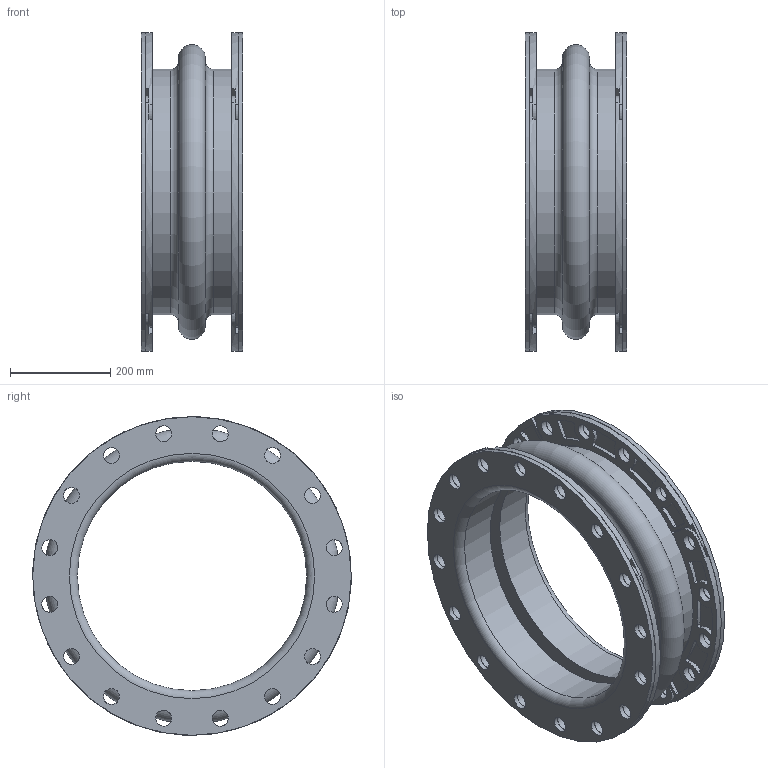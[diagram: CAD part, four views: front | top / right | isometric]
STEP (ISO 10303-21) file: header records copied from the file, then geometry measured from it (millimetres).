
FILE_DESCRIPTION(/* description */ (''),/* implementation_level */ '2;1');
FILE_NAME(/* name */ 'C:\001_Work\Designs\Mercer2014\MQInventor2014\RajR\500 Style\501\New folder\501 18IDx8FF.stp',/* time_stamp */ '2016-03-26T14:24:25-04:00',/* author */ ('rramoutar'),/* organization */ ('Mason Industries Inc.'),/* preprocessor_version */ 'ST-DEVELOPER v15.6',/* originating_system */ 'Autodesk Inventor 2015',/* authorisation */ '');
FILE_SCHEMA (('CONFIG_CONTROL_DESIGN'));
Length unit declared in the file: inch
Products named in the file (1): 501 18IDx8FF
Bounding box: 203.2 x 635 x 635 mm (x, y, z)
Volume: 11077859.3 mm3; surface area: 2017330.2 mm2
Topology: 3 solids, 3 shells, 474 faces, 1304 edges, 866 vertices
Faces by surface type: cylinder 346, plane 116, torus 8, cone 4
Full cylindrical faces by diameter (mm): 31.75 x64, 457.2 x2, 488.95 x2, 501.65 x2, 635 x4
Entity records: 15728 total; most frequent: DIRECTION 2914, CARTESIAN_POINT 2535, ORIENTED_EDGE 2412, AXIS2_PLACEMENT_3D 1233, EDGE_CURVE 1206, VERTEX_POINT 854, CIRCLE 758, EDGE_LOOP 724
